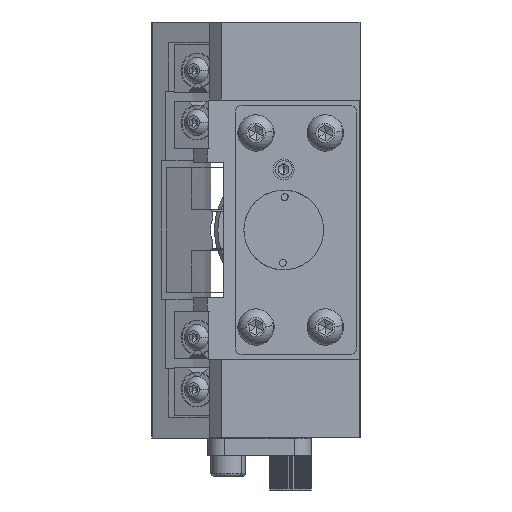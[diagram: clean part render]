
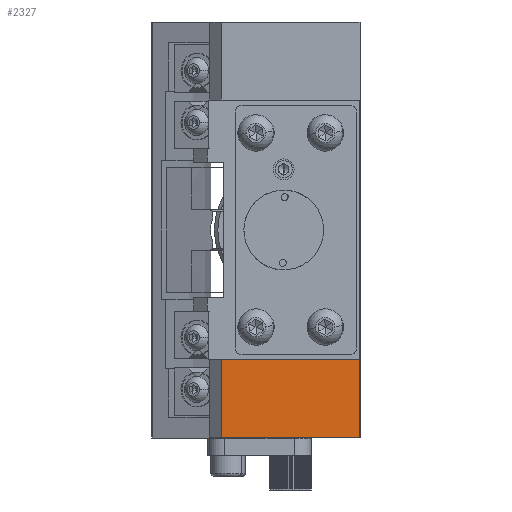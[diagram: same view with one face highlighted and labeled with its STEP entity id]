
A CAD part, left-side view. The second image highlights one B-rep face of the part: STEP entity #2327.
In plain terms, the highlighted planar face has unit normal (-1, 0, 0).
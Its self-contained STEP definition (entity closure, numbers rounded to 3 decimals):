
#328 = ORIENTED_EDGE ( 'NONE', *, *, #22420, .F. ) ;
#2180 = CARTESIAN_POINT ( 'NONE',  ( -77.5, -24., -60. ) ) ;
#2327 = ADVANCED_FACE ( 'NONE', ( #35621 ), #24348, .T. ) ;
#3547 = LINE ( 'NONE', #30515, #27904 ) ;
#5405 = DIRECTION ( 'NONE',  ( 0., 0., 1. ) ) ;
#8063 = CARTESIAN_POINT ( 'NONE',  ( -77.5, -24., -37.5 ) ) ;
#9308 = VECTOR ( 'NONE', #5405, 1000. ) ;
#11324 = ORIENTED_EDGE ( 'NONE', *, *, #16841, .T. ) ;
#12932 = VERTEX_POINT ( 'NONE', #30326 ) ;
#13560 = CARTESIAN_POINT ( 'NONE',  ( -77.5, 38., -60. ) ) ;
#16732 = DIRECTION ( 'NONE',  ( 0., -1., 0. ) ) ;
#16841 = EDGE_CURVE ( 'NONE', #12932, #18912, #29495, .T. ) ;
#18912 = VERTEX_POINT ( 'NONE', #32561 ) ;
#19769 = VERTEX_POINT ( 'NONE', #36690 ) ;
#19790 = DIRECTION ( 'NONE',  ( 0., 0., 1. ) ) ;
#19931 = DIRECTION ( 'NONE',  ( -1., 0., 0. ) ) ;
#20035 = ORIENTED_EDGE ( 'NONE', *, *, #38725, .T. ) ;
#20092 = VECTOR ( 'NONE', #16732, 1000. ) ;
#20347 = CARTESIAN_POINT ( 'NONE',  ( -77.5, -24., 60. ) ) ;
#20841 = EDGE_LOOP ( 'NONE', ( #30273, #11324, #20035, #328 ) ) ;
#22125 = VECTOR ( 'NONE', #27082, 1000. ) ;
#22420 = EDGE_CURVE ( 'NONE', #19769, #31407, #30522, .T. ) ;
#24348 = PLANE ( 'NONE',  #25635 ) ;
#25335 = EDGE_CURVE ( 'NONE', #19769, #12932, #3547, .T. ) ;
#25635 = AXIS2_PLACEMENT_3D ( 'NONE', #20347, #19931, #19790 ) ;
#26185 = LINE ( 'NONE', #2180, #9308 ) ;
#27082 = DIRECTION ( 'NONE',  ( 0., -1., 0. ) ) ;
#27306 = CARTESIAN_POINT ( 'NONE',  ( -77.5, -24., -37.5 ) ) ;
#27904 = VECTOR ( 'NONE', #33653, 1000. ) ;
#29495 = LINE ( 'NONE', #13560, #20092 ) ;
#30273 = ORIENTED_EDGE ( 'NONE', *, *, #25335, .T. ) ;
#30326 = CARTESIAN_POINT ( 'NONE',  ( -77.5, 16., -60. ) ) ;
#30515 = CARTESIAN_POINT ( 'NONE',  ( -77.5, 16., 140. ) ) ;
#30522 = LINE ( 'NONE', #8063, #22125 ) ;
#31407 = VERTEX_POINT ( 'NONE', #27306 ) ;
#32561 = CARTESIAN_POINT ( 'NONE',  ( -77.5, -24., -60. ) ) ;
#33653 = DIRECTION ( 'NONE',  ( 0., 0., -1. ) ) ;
#35621 = FACE_OUTER_BOUND ( 'NONE', #20841, .T. ) ;
#36690 = CARTESIAN_POINT ( 'NONE',  ( -77.5, 16., -37.5 ) ) ;
#38725 = EDGE_CURVE ( 'NONE', #18912, #31407, #26185, .T. ) ;
